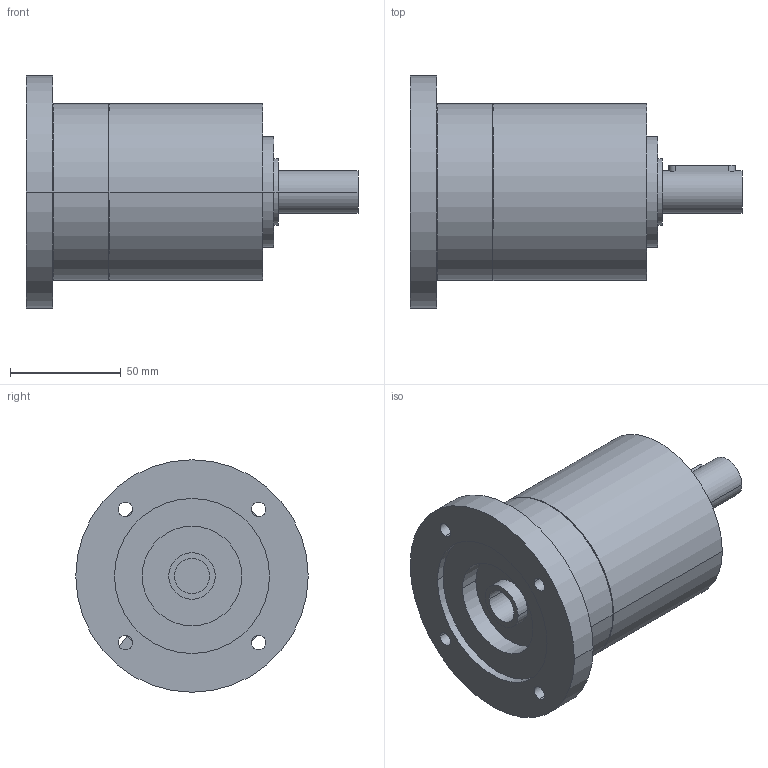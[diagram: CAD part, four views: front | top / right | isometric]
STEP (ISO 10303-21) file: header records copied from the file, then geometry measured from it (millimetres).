
FILE_DESCRIPTION(('CoCreate Modeling STEP Export'),'2;1');
FILE_NAME('GPR100_ig-3-4-5-6_19_B14_15.87_P04.stp','2014-08-26T10:07:33',(''),(''),'CoCreate Modeling STEP processor for AP214 (Solid Model)','CoCreate Modeling 16.00C 25-Feb-2009 (C) Parametric Technology GmbH','');
FILE_SCHEMA(('AUTOMOTIVE_DESIGN { 1 0 10303 214 1 1 1 1 }'));
Length unit declared in the file: millimetre
Products named in the file (2): GPR100_ig-3-4-5-6_19_B14_15.87_P04
Assembly tree (1 placements, depth 2):
  GPR100_ig-3-4-5-6_19_B14_15.87_P04
    GPR100_ig-3-4-5-6_19_B14_15.87_P04
Bounding box: 150 x 105 x 105 mm (x, y, z)
Surface area: 55547.3 mm2 (no closed solid volume)
Topology: 0 solids, 1 shells, 80 faces, 216 edges, 148 vertices
Faces by surface type: cylinder 48, plane 26, cone 6
Entity records: 2119 total; most frequent: ORIENTED_EDGE 427, CARTESIAN_POINT 392, DIRECTION 274, EDGE_CURVE 213, VERTEX_POINT 148, AXIS2_PLACEMENT_3D 107, EDGE_LOOP 102, FACE_OUTER_BOUND 80
